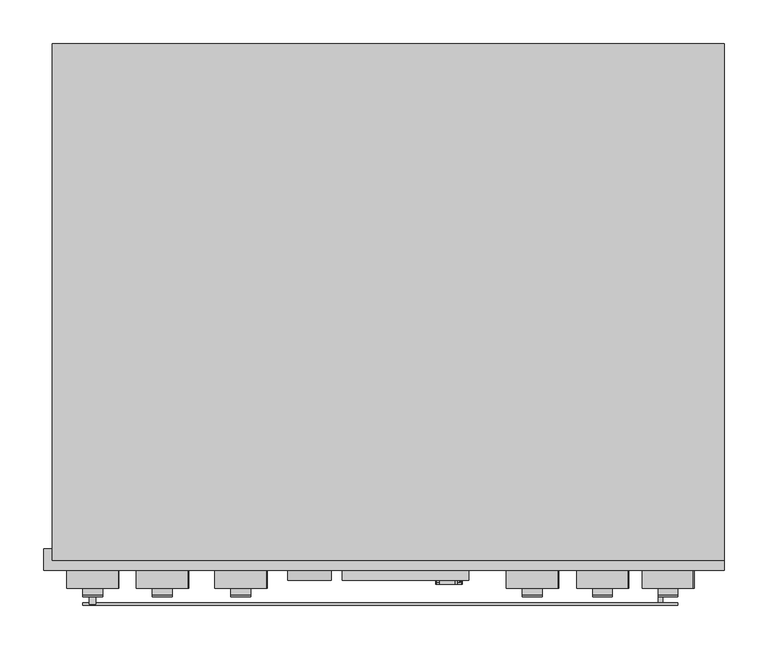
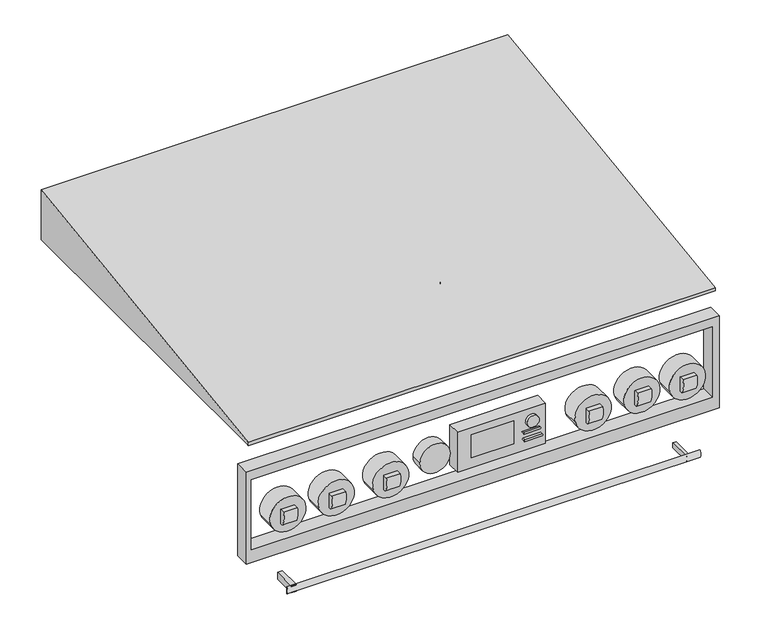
"""IFC4 building model written with IfcOpenShell, lengths in millimetres: furniture geometry, lkfogo_6_bocas_10561 : lkfogo_6_bocas_10561."""

from ifc_helpers import new_model, si_unit, point, frame, frame_2d, origin, place, context, project, spatial, polyline, circle_curve, ellipse_curve, trimmed, segment, composite_curve, outline, extrude, source, transform, mapped, element, save
from ifc_brep_helpers import plane_surface, extruded_surface, advanced_brep


def furniture_c68440b6(model_context):
    return source(origin(), model_context, "Body", "SolidModel", [
        extrude(outline(polyline([(525.0780367, -269.1443577), (455.0780367, -269.1443577), (455.0780367, -266.2082833), (525.0780367, -266.2082833), (525.0780367, -269.1443577)])), frame((0.0, 0.0, 747.9410392), z_axis=(0.0, 0.0, 1.0), x_axis=(1.0, 0.0, 0.0)), (0.0, 0.0, 1.0), 40.0),
        extrude(outline(polyline([(767.3219756, 460.5320469), (766.2286319, 461.6253907), (767.4032745, 462.8000333), (777.8502662, 462.8000333), (779.8074883, 461.6806568), (777.8180376, 460.5320469), (767.3219756, 460.5320469)])), frame((0.0, -266.2082833, 0.0), z_axis=(0.0, 1.0, 0.0), x_axis=(0.0, 0.0, 1.0)), (0.0, 0.0, 1.0), 16.2082833),
        extrude(outline(polyline([(767.3219756, 478.1737337), (766.2286319, 479.2670774), (767.4032745, 480.44172), (777.8502662, 480.44172), (779.8074883, 479.3223436), (777.8180376, 478.1737337), (767.3219756, 478.1737337)])), frame((0.0, -266.2082833, 0.0), z_axis=(0.0, 1.0, 0.0), x_axis=(0.0, 0.0, 1.0)), (0.0, 0.0, 1.0), 16.2082833),
        extrude(outline(polyline([(752.1850122, 460.5320469), (751.0916685, 461.6253907), (752.2663111, 462.8000333), (762.7133028, 462.8000333), (764.6705248, 461.6806568), (762.6810742, 460.5320469), (752.1850122, 460.5320469)])), frame((0.0, -266.2082833, 0.0), z_axis=(0.0, 1.0, 0.0), x_axis=(0.0, 0.0, 1.0)), (0.0, 0.0, 1.0), 16.2082833),
        extrude(outline(polyline([(750.1550861, 475.9956662), (751.2484298, 477.08901), (752.4230724, 475.9143674), (752.4230724, 465.4673757), (751.303696, 463.5101536), (750.1550861, 465.4996043), (750.1550861, 475.9956662)])), frame((0.0, -266.2082833, 0.0), z_axis=(0.0, 1.0, 0.0), x_axis=(0.0, 0.0, 1.0)), (0.0, 0.0, 1.0), 16.2082833),
        extrude(outline(polyline([(752.5249647, 478.1737337), (751.4316209, 479.2670774), (752.6062635, 480.44172), (763.0532552, 480.44172), (765.0104773, 479.3223436), (763.0210266, 478.1737337), (752.5249647, 478.1737337)])), frame((0.0, -266.2082833, 0.0), z_axis=(0.0, 1.0, 0.0), x_axis=(0.0, 0.0, 1.0)), (0.0, 0.0, 1.0), 16.2082833),
        extrude(outline(polyline([(767.3219756, 492.1512446), (766.2286319, 493.2445884), (767.4032745, 494.419231), (777.8502662, 494.419231), (779.8074883, 493.2998545), (777.8180376, 492.1512446), (767.3219756, 492.1512446)])), frame((0.0, -266.2082833, 0.0), z_axis=(0.0, 1.0, 0.0), x_axis=(0.0, 0.0, 1.0)), (0.0, 0.0, 1.0), 16.2082833),
        extrude(outline(polyline([(778.4964923, 475.9956662), (779.5898361, 477.08901), (780.7644787, 475.9143674), (780.7644787, 465.4673757), (779.6451022, 463.5101536), (778.4964923, 465.4996043), (778.4964923, 475.9956662)])), frame((0.0, -266.2082833, 0.0), z_axis=(0.0, 1.0, 0.0), x_axis=(0.0, 0.0, 1.0)), (0.0, 0.0, 1.0), 16.2082833),
        extrude(outline(polyline([(786.1658059, 478.8023165), (786.1658059, 477.472357), (783.2782394, 476.9632011), (782.9410392, 478.8755585), (783.9577562, 479.8922755), (783.9577562, 477.772686), (786.1658059, 478.8023165)])), frame((0.0, -266.2082833, 0.0), z_axis=(0.0, 1.0, 0.0), x_axis=(0.0, 0.0, 1.0)), (0.0, 0.0, 1.0), 19.730346),
        extrude(outline(polyline([(782.9890117, 480.0780367), (783.7210322, 480.6359), (782.9410392, 481.182057), (782.9410392, 482.1608324), (784.2615782, 480.8402934), (786.1658059, 482.7445211), (786.1658059, 481.830958), (784.4916818, 480.4262011), (786.1658059, 481.206858), (786.1658059, 480.0780367), (782.9890117, 480.0780367)])), frame((0.0, -266.2082833, 0.0), z_axis=(0.0, 1.0, 0.0), x_axis=(0.0, 0.0, 1.0)), (0.0, 0.0, 1.0), 19.730346),
        extrude(outline(polyline([(525.0780367, -266.2082833), (455.0780367, -266.2082833), (455.0780367, -250.0), (525.0780367, -250.0), (525.0780367, -266.2082833)])), frame((0.0, 0.0, 782.9410392), z_axis=(0.0, 0.0, 1.0), x_axis=(1.0, 0.0, 0.0)), (0.0, 0.0, 1.0), 5.0),
        advanced_brep(
        [(540.4742711, -273.8511244, 752.6437669), (540.4742711, -273.8511244, 749.3815631), (569.4464317, -273.8511244, 749.3815631), (569.4464317, -273.8511244, 752.6437669), (540.4742711, -226.337767, 752.6437669), (569.4464317, -226.337767, 752.6437669), (569.4464317, -226.337767, 749.3815631), (540.4742711, -226.337767, 749.3815631)],
        [
            (0, 1, ellipse_curve(frame((540.4742711, -273.8511244, 751.012665), z_axis=(0.0, -1.0, 0.0), x_axis=(0.0, 0.0, 1.0)), 1.6311019, 0.815551)),
            (1, 2),
            (2, 3, ellipse_curve(frame((569.4464317, -273.8511244, 751.012665), z_axis=(0.0, -1.0, 0.0), x_axis=(0.0, 0.0, -1.0)), 1.6311019, 0.815551)),
            (3, 0),
            (4, 5),
            (5, 6, ellipse_curve(frame((569.4464317, -226.337767, 751.012665), z_axis=(0.0, 1.0, 0.0), x_axis=(0.0, 0.0, -1.0)), 1.6311019, 0.815551)),
            (6, 7),
            (7, 4, ellipse_curve(frame((540.4742711, -226.337767, 751.012665), z_axis=(0.0, 1.0, 0.0), x_axis=(0.0, 0.0, 1.0)), 1.6311019, 0.815551)),
            (0, 4),
            (7, 1),
            (6, 2),
            (5, 3),
        ],
        [
            plane_surface(frame((540.4742711, -273.8511244, 752.6437669), z_axis=(0.0, -1.0, 0.0), x_axis=(-1.0, 0.0, 0.0))),
            plane_surface(frame((540.4742711, -226.337767, 752.6437669), z_axis=(0.0, 1.0, 0.0), x_axis=(1.0, 0.0, 0.0))),
            extruded_surface(trimmed(ellipse_curve(frame((540.4742711, -178.8244096, 751.012665), z_axis=(0.0, -1.0, 0.0), x_axis=(0.0, 0.0, 1.0)), 1.6311019, 0.815551), [point((540.4742711, -178.8244096, 752.6437669))], [point((540.4742711, -178.8244096, 749.3815631))], True, "CARTESIAN"), (0.0, -47.51335740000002, 0.0), 47.51335740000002),
            plane_surface(frame((540.4742711, -273.8511244, 749.3815631), z_axis=(0.0, 0.0, -1.0), x_axis=(0.0, 1.0, 0.0))),
            extruded_surface(trimmed(ellipse_curve(frame((569.4464317, -178.8244096, 751.012665), z_axis=(0.0, -1.0, 0.0), x_axis=(0.0, 0.0, -1.0)), 1.6311019, 0.815551), [point((569.4464317, -178.8244096, 749.3815631))], [point((569.4464317, -178.8244096, 752.6437669))], True, "CARTESIAN"), (0.0, -47.51335740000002, 0.0), 47.51335740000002),
            plane_surface(frame((569.4464317, -273.8511244, 752.6437669), z_axis=(0.0, 0.0, 1.0), x_axis=(0.0, 1.0, 0.0))),
        ],
        [
            (0, [[1, 2, 3, 4]]),
            (1, [[5, 6, 7, 8]]),
            (2, [[-1, 9, -8, 10]]),
            (3, [[-2, -10, -7, 11]]),
            (4, [[-3, -11, -6, 12]]),
            (5, [[-4, -12, -5, -9]]),
        ],
    ),
        advanced_brep(
        [(540.656711, -271.8159662, 764.4132531), (540.656711, -271.8159662, 761.1510492), (567.3457423, -271.8159662, 761.1510492), (567.3457423, -271.8159662, 764.4132531), (540.656711, -246.4779373, 764.4132531), (567.3457423, -246.4779373, 764.4132531), (567.3457423, -246.4779373, 761.1510492), (540.656711, -246.4779373, 761.1510492)],
        [
            (0, 1, ellipse_curve(frame((540.656711, -271.8159662, 762.7821511), z_axis=(0.0, -1.0, 0.0), x_axis=(0.0, 0.0, 1.0)), 1.6311019, 0.815551)),
            (1, 2),
            (2, 3, ellipse_curve(frame((567.3457423, -271.8159662, 762.7821511), z_axis=(0.0, -1.0, 0.0), x_axis=(0.0, 0.0, -1.0)), 1.6311019, 0.815551)),
            (3, 0),
            (4, 5),
            (5, 6, ellipse_curve(frame((567.3457423, -246.4779373, 762.7821511), z_axis=(0.0, 1.0, 0.0), x_axis=(0.0, 0.0, -1.0)), 1.6311019, 0.815551)),
            (6, 7),
            (7, 4, ellipse_curve(frame((540.656711, -246.4779373, 762.7821511), z_axis=(0.0, 1.0, 0.0), x_axis=(0.0, 0.0, 1.0)), 1.6311019, 0.815551)),
            (0, 4),
            (7, 1),
            (6, 2),
            (5, 3),
        ],
        [
            plane_surface(frame((540.656711, -271.8159662, 764.4132531), z_axis=(0.0, -1.0, 0.0), x_axis=(-1.0, 0.0, 0.0))),
            plane_surface(frame((540.656711, -246.4779373, 764.4132531), z_axis=(0.0, 1.0, 0.0), x_axis=(1.0, 0.0, 0.0))),
            extruded_surface(trimmed(ellipse_curve(frame((540.656711, -221.1399084, 762.7821511), z_axis=(0.0, -1.0, 0.0), x_axis=(0.0, 0.0, 1.0)), 1.6311019, 0.815551), [point((540.656711, -221.1399084, 764.4132531))], [point((540.656711, -221.1399084, 761.1510492))], True, "CARTESIAN"), (0.0, -25.338028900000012, 0.0), 25.338028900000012),
            plane_surface(frame((540.656711, -271.8159662, 761.1510492), z_axis=(0.0, 0.0, -1.0), x_axis=(0.0, 1.0, 0.0))),
            extruded_surface(trimmed(ellipse_curve(frame((567.3457423, -221.1399084, 762.7821511), z_axis=(0.0, -1.0, 0.0), x_axis=(0.0, 0.0, -1.0)), 1.6311019, 0.815551), [point((567.3457423, -221.1399084, 761.1510492))], [point((567.3457423, -221.1399084, 764.4132531))], True, "CARTESIAN"), (0.0, -25.338028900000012, 0.0), 25.338028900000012),
            plane_surface(frame((567.3457423, -271.8159662, 764.4132531), z_axis=(0.0, 0.0, 1.0), x_axis=(0.0, 1.0, 0.0))),
        ],
        [
            (0, [[1, 2, 3, 4]]),
            (1, [[5, 6, 7, 8]]),
            (2, [[-1, 9, -8, 10]]),
            (3, [[-2, -10, -7, 11]]),
            (4, [[-3, -11, -6, 12]]),
            (5, [[-4, -12, -5, -9]]),
        ],
    ),
        advanced_brep(
        [(561.6524908, -273.8511244, 786.801504), (547.5103552, -273.8511244, 772.6593684), (561.6524908, -246.4779373, 786.801504), (547.5103552, -246.4779373, 772.6593684)],
        [
            (0, 1, circle_curve(frame((554.581423, -273.8511244, 779.7304362), z_axis=(0.0, -1.0, 0.0), x_axis=(-0.7071067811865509, 0.0, -0.7071067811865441)), 10.0)),
            (1, 0, circle_curve(frame((554.581423, -273.8511244, 779.7304362), z_axis=(0.0, -1.0, 0.0), x_axis=(-0.7071067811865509, 0.0, -0.7071067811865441)), 10.0)),
            (2, 3, ellipse_curve(frame((554.581423, -246.4779373, 779.7304362), z_axis=(0.0, 1.0, 0.0), x_axis=(-0.7071067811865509, 0.0, -0.7071067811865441)), 10.0, 10.0)),
            (3, 2, ellipse_curve(frame((554.581423, -246.4779373, 779.7304362), z_axis=(0.0, 1.0, 0.0), x_axis=(-0.7071067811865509, 0.0, -0.7071067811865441)), 10.0, 10.0)),
            (0, 2),
            (3, 1),
        ],
        [
            plane_surface(frame((547.5103552, -273.8511244, 772.6593684), z_axis=(0.0, -1.0, 0.0), x_axis=(0.7071067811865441, 0.0, -0.7071067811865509))),
            plane_surface(frame((547.5103552, -246.4779373, 772.6593684), z_axis=(0.0, 1.0, 0.0), x_axis=(-0.7071067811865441, 0.0, 0.7071067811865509))),
            extruded_surface(trimmed(ellipse_curve(frame((554.581423, -219.1047502, 779.7304362), z_axis=(0.0, -1.0, 0.0), x_axis=(-0.7071067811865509, 0.0, -0.7071067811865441)), 10.0, 10.0), [point((561.6524908, -219.1047502, 786.801504))], [point((547.5103552, -219.1047502, 772.6593684))], True, "CARTESIAN"), (0.0, -27.373187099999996, 0.0), 27.373187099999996),
            extruded_surface(trimmed(ellipse_curve(frame((554.581423, -219.1047502, 779.7304362), z_axis=(0.0, -1.0, 0.0), x_axis=(-0.7071067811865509, 0.0, -0.7071067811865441)), 10.0, 10.0), [point((547.5103552, -219.1047502, 772.6593684))], [point((561.6524908, -219.1047502, 786.801504))], True, "CARTESIAN"), (0.0, -27.373187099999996, 0.0), 27.373187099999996),
        ],
        [
            (0, [[1, 2]]),
            (1, [[3, 4]]),
            (2, [[-1, 5, -4, 6]]),
            (3, [[-2, -6, -3, -5]]),
        ],
    ),
        extrude(outline(polyline([(843.3845259, 871.0), (843.3845259, 90.0), (682.9911074, 90.0), (682.9911074, 871.0), (843.3845259, 871.0)]), holes=[polyline([(705.2877095, 860.0), (705.2877095, 97.9875573), (827.9911074, 97.9875573), (827.9911074, 860.0), (705.2877095, 860.0)])]), frame((0.0, -257.5488816, 0.0), z_axis=(0.0, 1.0, 0.0), x_axis=(0.0, 0.0, 1.0)), (0.0, 0.0, 1.0), 24.2680838),
        extrude(outline(polyline([(149.9204792, -257.5488816), (149.9204792, -296.5558806), (142.1687699, -296.5558806), (142.1687699, -257.5488816), (149.9204792, -257.5488816)])), frame((0.0, 0.0, 638.3659998), z_axis=(0.0, 0.0, 1.0), x_axis=(1.0, 0.0, 0.0)), (0.0, 0.0, 1.0), 11.9217097),
        extrude(outline(polyline([(800.5444022, -257.5488816), (800.5444022, -296.5558806), (794.9204792, -296.5558806), (794.9204792, -257.5488816), (800.5444022, -257.5488816)])), frame((0.0, 0.0, 639.8586083), z_axis=(0.0, 0.0, 1.0), x_axis=(1.0, 0.0, 0.0)), (0.0, 0.0, 1.0), 8.132499),
        advanced_brep(
        [(817.6307567, -295.3027112, 638.3659998), (817.6307567, -295.3027112, 650.724288), (134.9204792, -295.3027112, 638.3659998), (134.9204792, -295.3027112, 650.724288)],
        [
            (0, 1, ellipse_curve(frame((817.6307567, -295.3027112, 644.5451439), z_axis=(-1.0, 0.0, 0.0), x_axis=(0.0, 0.0, -1.0)), 6.1791441, 1.0346726)),
            (1, 0, ellipse_curve(frame((817.6307567, -295.3027112, 644.5451439), z_axis=(1.0, 0.0, 0.0), x_axis=(0.0, 0.0, 1.0)), 6.1791441, 2.4274177)),
            (2, 3, ellipse_curve(frame((134.9204792, -295.3027112, 644.5451439), z_axis=(-1.0, 0.0, 0.0), x_axis=(0.0, 0.0, 1.0)), 6.1791441, 2.4274177)),
            (3, 2, ellipse_curve(frame((134.9204792, -295.3027112, 644.5451439), z_axis=(1.0, 0.0, 0.0), x_axis=(0.0, 0.0, -1.0)), 6.1791441, 1.0346726)),
            (0, 2),
            (3, 1),
        ],
        [
            plane_surface(frame((817.6307567, -295.3027112, 638.3659998), z_axis=(1.0, 0.0, 0.0), x_axis=(0.0, -1.0, 0.0))),
            plane_surface(frame((134.9204792, -295.3027112, 638.3659998), z_axis=(-1.0, 0.0, 0.0), x_axis=(0.0, 1.0, 0.0))),
            extruded_surface(trimmed(ellipse_curve(frame((-547.7897983, -295.3027112, 644.5451439), z_axis=(-1.0, 0.0, 0.0), x_axis=(0.0, 0.0, -1.0)), 6.1791441, 1.0346726), [point((-547.7897983, -295.3027112, 638.3659998))], [point((-547.7897983, -295.3027112, 650.724288))], True, "CARTESIAN"), (682.7102775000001, 0.0, 0.0), 682.7102775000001),
            extruded_surface(trimmed(ellipse_curve(frame((-547.7897983, -295.3027112, 644.5451439), z_axis=(1.0, 0.0, 0.0), x_axis=(0.0, 0.0, 1.0)), 6.1791441, 2.4274177), [point((-547.7897983, -295.3027112, 650.724288))], [point((-547.7897983, -295.3027112, 638.3659998))], True, "CARTESIAN"), (682.7102775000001, 0.0, 0.0), 682.7102775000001),
        ],
        [
            (0, [[1, 2]]),
            (1, [[3, 4]]),
            (2, [[-1, 5, -4, 6]]),
            (3, [[-2, -6, -3, -5]]),
        ],
    ),
        advanced_brep(
        [(370.0780367, -269.1443577, 767.9911074), (420.0780367, -269.1443577, 767.9911074), (370.0780367, -250.0, 767.9911074), (420.0780367, -250.0, 767.9911074)],
        [
            (0, 1, circle_curve(frame((395.0780367, -269.1443577, 767.9911074), z_axis=(0.0, -1.0, 0.0), x_axis=(1.0, 0.0, 0.0)), 25.0)),
            (1, 0, circle_curve(frame((395.0780367, -269.1443577, 767.9911074), z_axis=(0.0, -1.0, 0.0), x_axis=(1.0, 0.0, 0.0)), 25.0)),
            (2, 3, ellipse_curve(frame((395.0780367, -250.0, 767.9911074), z_axis=(0.0, 1.0, 0.0), x_axis=(1.0, 0.0, 0.0)), 25.0, 25.0)),
            (3, 2, ellipse_curve(frame((395.0780367, -250.0, 767.9911074), z_axis=(0.0, 1.0, 0.0), x_axis=(1.0, 0.0, 0.0)), 25.0, 25.0)),
            (0, 2),
            (3, 1),
        ],
        [
            plane_surface(frame((420.0780367, -269.1443577, 767.9911074), z_axis=(0.0, -1.0, 0.0), x_axis=(0.0, 0.0, 1.0))),
            plane_surface(frame((420.0780367, -250.0, 767.9911074), z_axis=(0.0, 1.0, 0.0), x_axis=(0.0, 0.0, -1.0))),
            extruded_surface(trimmed(ellipse_curve(frame((395.0780367, -230.8556423, 767.9911074), z_axis=(0.0, -1.0, 0.0), x_axis=(1.0, 0.0, 0.0)), 25.0, 25.0), [point((370.0780367, -230.8556423, 767.9911074))], [point((420.0780367, -230.8556423, 767.9911074))], True, "CARTESIAN"), (0.0, -19.1443577, 0.0), 19.1443577),
            extruded_surface(trimmed(ellipse_curve(frame((395.0780367, -230.8556423, 767.9911074), z_axis=(0.0, -1.0, 0.0), x_axis=(1.0, 0.0, 0.0)), 25.0, 25.0), [point((420.0780367, -230.8556423, 767.9911074))], [point((370.0780367, -230.8556423, 767.9911074))], True, "CARTESIAN"), (0.0, -19.1443577, 0.0), 19.1443577),
        ],
        [
            (0, [[1, 2]]),
            (1, [[3, 4]]),
            (2, [[-1, 5, -4, 6]]),
            (3, [[-2, -6, -3, -5]]),
        ],
    ),
        extrude(outline(polyline([(800.2877095, 577.6307567), (800.2877095, 432.6307567), (730.2877095, 432.6307567), (730.2877095, 577.6307567), (800.2877095, 577.6307567)]), holes=[polyline([(787.9410392, 525.0780367), (747.9410392, 525.0780367), (747.9410392, 455.0780367), (787.9410392, 455.0780367), (787.9410392, 525.0780367)])]), frame((0.0, -269.1443577, 0.0), z_axis=(0.0, 1.0, 0.0), x_axis=(0.0, 0.0, 1.0)), (0.0, 0.0, 1.0), 22.6664204),
        advanced_brep(
        [(817.6307567, -286.6061628, 775.5860292), (817.6307567, -281.6417117, 750.7911222), (817.6307567, -269.1443577, 750.7911222), (817.6307567, -269.1443577, 775.5860292), (794.9204792, -286.6061628, 775.5860292), (794.9204792, -269.1443577, 775.5860292), (794.9204792, -269.1443577, 750.7911222), (794.9204792, -281.6417117, 750.7911222)],
        [
            (0, 1, ellipse_curve(frame((817.6307567, -282.8930347, 764.3553235), z_axis=(1.0000000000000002, 0.0, 0.0), x_axis=(0.0, 0.09186180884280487, -0.9957717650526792)), 13.6217975, 5.0)),
            (1, 2),
            (2, 3),
            (3, 0),
            (4, 5),
            (5, 6),
            (6, 7),
            (7, 4, ellipse_curve(frame((794.9204792, -282.8930347, 764.3553235), z_axis=(-1.0000000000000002, 0.0, 0.0), x_axis=(0.0, 0.09186180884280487, -0.9957717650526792)), 13.6217975, 5.0)),
            (0, 4),
            (7, 1),
            (6, 2),
            (5, 3),
        ],
        [
            plane_surface(frame((817.6307567, -281.6417117, 750.7911222), z_axis=(1.0000000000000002, 0.0, 0.0), x_axis=(0.0, 0.9957717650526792, 0.09186180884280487))),
            plane_surface(frame((794.9204792, -281.6417117, 750.7911222), z_axis=(-1.0000000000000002, 0.0, 0.0), x_axis=(0.0, -0.9957717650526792, -0.09186180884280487))),
            extruded_surface(trimmed(ellipse_curve(frame((772.2102017, -282.8930347, 764.3553235), z_axis=(1.0000000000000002, 0.0, 0.0), x_axis=(0.0, 0.09186180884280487, -0.9957717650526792)), 13.6217975, 5.0), [point((772.2102017, -286.6061628, 775.5860292))], [point((772.2102017, -281.6417117, 750.7911222))], True, "CARTESIAN"), (22.710277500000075, 0.0, 0.0), 22.710277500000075),
            plane_surface(frame((817.6307567, -281.6417117, 750.7911222), z_axis=(0.0, 0.0, -1.0), x_axis=(-1.0, 0.0, 0.0))),
            plane_surface(frame((817.6307567, -269.1443577, 750.7911222), z_axis=(0.0, 1.0, 0.0), x_axis=(-1.0, 0.0, 0.0))),
            plane_surface(frame((817.6307567, -269.1443577, 775.5860292), z_axis=(0.0, 0.0, 1.0), x_axis=(-1.0, 0.0, 0.0))),
        ],
        [
            (0, [[1, 2, 3, 4]]),
            (1, [[5, 6, 7, 8]]),
            (2, [[-1, 9, -8, 10]]),
            (3, [[-2, -10, -7, 11]]),
            (4, [[-3, -11, -6, 12]]),
            (5, [[-4, -12, -5, -9]]),
        ],
    ),
        advanced_brep(
        [(835.4820734, -278.5011133, 771.6201985), (777.5265239, -278.5011133, 756.0910558), (835.4820734, -250.0, 771.6201985), (777.5265239, -250.0, 756.0910558)],
        [
            (0, 1, circle_curve(frame((806.5042987, -278.5011133, 763.8556272), z_axis=(0.0, -1.0000000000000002, 0.0), x_axis=(-0.9659258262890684, 0.0, -0.2588190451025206)), 30.0)),
            (1, 0, circle_curve(frame((806.5042987, -278.5011133, 763.8556272), z_axis=(0.0, -1.0000000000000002, 0.0), x_axis=(-0.9659258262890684, 0.0, -0.2588190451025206)), 30.0)),
            (2, 3, ellipse_curve(frame((806.5042987, -250.0, 763.8556272), z_axis=(0.0, 1.0000000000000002, 0.0), x_axis=(-0.9659258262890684, 0.0, -0.2588190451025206)), 30.0, 30.0)),
            (3, 2, ellipse_curve(frame((806.5042987, -250.0, 763.8556272), z_axis=(0.0, 1.0000000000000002, 0.0), x_axis=(-0.9659258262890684, 0.0, -0.2588190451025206)), 30.0, 30.0)),
            (0, 2),
            (3, 1),
        ],
        [
            plane_surface(frame((777.5265239, -278.5011133, 756.0910558), z_axis=(0.0, -1.0000000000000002, 0.0), x_axis=(0.2588190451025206, 0.0, -0.9659258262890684))),
            plane_surface(frame((777.5265239, -250.0, 756.0910558), z_axis=(0.0, 1.0000000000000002, 0.0), x_axis=(-0.2588190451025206, 0.0, 0.9659258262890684))),
            extruded_surface(trimmed(ellipse_curve(frame((806.5042987, -221.4988867, 763.8556272), z_axis=(0.0, -1.0000000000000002, 0.0), x_axis=(-0.9659258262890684, 0.0, -0.2588190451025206)), 30.0, 30.0), [point((835.4820734, -221.4988867, 771.6201985))], [point((777.5265239, -221.4988867, 756.0910558))], True, "CARTESIAN"), (0.0, -28.501113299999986, 0.0), 28.501113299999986),
            extruded_surface(trimmed(ellipse_curve(frame((806.5042987, -221.4988867, 763.8556272), z_axis=(0.0, -1.0000000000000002, 0.0), x_axis=(-0.9659258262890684, 0.0, -0.2588190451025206)), 30.0, 30.0), [point((777.5265239, -221.4988867, 756.0910558))], [point((835.4820734, -221.4988867, 771.6201985))], True, "CARTESIAN"), (0.0, -28.501113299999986, 0.0), 28.501113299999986),
        ],
        [
            (0, [[1, 2]]),
            (1, [[3, 4]]),
            (2, [[-1, 5, -4, 6]]),
            (3, [[-2, -6, -3, -5]]),
        ],
    ),
        advanced_brep(
        [(742.3917732, -286.6061628, 778.4026906), (742.3917732, -281.6417117, 753.6077835), (742.3917732, -269.1443577, 753.6077835), (742.3917732, -269.1443577, 778.4026906), (719.6814957, -286.6061628, 778.4026906), (719.6814957, -269.1443577, 778.4026906), (719.6814957, -269.1443577, 753.6077835), (719.6814957, -281.6417117, 753.6077835)],
        [
            (0, 1, ellipse_curve(frame((742.3917732, -282.8930347, 767.1719848), z_axis=(1.0000000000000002, 0.0, 0.0), x_axis=(0.0, 0.09186180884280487, -0.9957717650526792)), 13.6217975, 5.0)),
            (1, 2),
            (2, 3),
            (3, 0),
            (4, 5),
            (5, 6),
            (6, 7),
            (7, 4, ellipse_curve(frame((719.6814957, -282.8930347, 767.1719848), z_axis=(-1.0000000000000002, 0.0, 0.0), x_axis=(0.0, 0.09186180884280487, -0.9957717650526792)), 13.6217975, 5.0)),
            (0, 4),
            (7, 1),
            (6, 2),
            (5, 3),
        ],
        [
            plane_surface(frame((742.3917732, -281.6417117, 753.6077835), z_axis=(1.0000000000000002, 0.0, 0.0), x_axis=(0.0, 0.9957717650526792, 0.09186180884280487))),
            plane_surface(frame((719.6814957, -281.6417117, 753.6077835), z_axis=(-1.0000000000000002, 0.0, 0.0), x_axis=(0.0, -0.9957717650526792, -0.09186180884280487))),
            extruded_surface(trimmed(ellipse_curve(frame((696.9712181, -282.8930347, 767.1719848), z_axis=(1.0000000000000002, 0.0, 0.0), x_axis=(0.0, 0.09186180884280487, -0.9957717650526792)), 13.6217975, 5.0), [point((696.9712181, -286.6061628, 778.4026906))], [point((696.9712181, -281.6417117, 753.6077835))], True, "CARTESIAN"), (22.71027760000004, 0.0, 0.0), 22.71027760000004),
            plane_surface(frame((742.3917732, -281.6417117, 753.6077835), z_axis=(0.0, 0.0, -1.0), x_axis=(-1.0, 0.0, 0.0))),
            plane_surface(frame((742.3917732, -269.1443577, 753.6077835), z_axis=(0.0, 1.0, 0.0), x_axis=(-1.0, 0.0, 0.0))),
            plane_surface(frame((742.3917732, -269.1443577, 778.4026906), z_axis=(0.0, 0.0, 1.0), x_axis=(-1.0, 0.0, 0.0))),
        ],
        [
            (0, [[1, 2, 3, 4]]),
            (1, [[5, 6, 7, 8]]),
            (2, [[-1, 9, -8, 10]]),
            (3, [[-2, -10, -7, 11]]),
            (4, [[-3, -11, -6, 12]]),
            (5, [[-4, -12, -5, -9]]),
        ],
    ),
        advanced_brep(
        [(760.2430899, -278.5011133, 774.4368598), (702.2875403, -278.5011133, 758.9077171), (760.2430899, -250.0, 774.4368598), (702.2875403, -250.0, 758.9077171)],
        [
            (0, 1, circle_curve(frame((731.2653151, -278.5011133, 766.6722885), z_axis=(0.0, -1.0000000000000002, 0.0), x_axis=(-0.9659258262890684, 0.0, -0.2588190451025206)), 30.0)),
            (1, 0, circle_curve(frame((731.2653151, -278.5011133, 766.6722885), z_axis=(0.0, -1.0000000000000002, 0.0), x_axis=(-0.9659258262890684, 0.0, -0.2588190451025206)), 30.0)),
            (2, 3, ellipse_curve(frame((731.2653151, -250.0, 766.6722885), z_axis=(0.0, 1.0000000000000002, 0.0), x_axis=(-0.9659258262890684, 0.0, -0.2588190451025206)), 30.0, 30.0)),
            (3, 2, ellipse_curve(frame((731.2653151, -250.0, 766.6722885), z_axis=(0.0, 1.0000000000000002, 0.0), x_axis=(-0.9659258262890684, 0.0, -0.2588190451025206)), 30.0, 30.0)),
            (0, 2),
            (3, 1),
        ],
        [
            plane_surface(frame((702.2875403, -278.5011133, 758.9077171), z_axis=(0.0, -1.0000000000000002, 0.0), x_axis=(0.2588190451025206, 0.0, -0.9659258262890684))),
            plane_surface(frame((702.2875403, -250.0, 758.9077171), z_axis=(0.0, 1.0000000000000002, 0.0), x_axis=(-0.2588190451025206, 0.0, 0.9659258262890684))),
            extruded_surface(trimmed(ellipse_curve(frame((731.2653151, -221.4988867, 766.6722885), z_axis=(0.0, -1.0000000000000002, 0.0), x_axis=(-0.9659258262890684, 0.0, -0.2588190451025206)), 30.0, 30.0), [point((760.2430899, -221.4988867, 774.4368598))], [point((702.2875403, -221.4988867, 758.9077171))], True, "CARTESIAN"), (0.0, -28.501113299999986, 0.0), 28.501113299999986),
            extruded_surface(trimmed(ellipse_curve(frame((731.2653151, -221.4988867, 766.6722885), z_axis=(0.0, -1.0000000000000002, 0.0), x_axis=(-0.9659258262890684, 0.0, -0.2588190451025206)), 30.0, 30.0), [point((702.2875403, -221.4988867, 758.9077171))], [point((760.2430899, -221.4988867, 774.4368598))], True, "CARTESIAN"), (0.0, -28.501113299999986, 0.0), 28.501113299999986),
        ],
        [
            (0, [[1, 2]]),
            (1, [[3, 4]]),
            (2, [[-1, 5, -4, 6]]),
            (3, [[-2, -6, -3, -5]]),
        ],
    ),
        advanced_brep(
        [(662.0640151, -286.6061628, 775.5860292), (662.0640151, -281.6417117, 750.7911222), (662.0640151, -269.1443577, 750.7911222), (662.0640151, -269.1443577, 775.5860292), (639.3537375, -286.6061628, 775.5860292), (639.3537375, -269.1443577, 775.5860292), (639.3537375, -269.1443577, 750.7911222), (639.3537375, -281.6417117, 750.7911222)],
        [
            (0, 1, ellipse_curve(frame((662.0640151, -282.8930347, 764.3553235), z_axis=(1.0000000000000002, 0.0, 0.0), x_axis=(0.0, 0.09186180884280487, -0.9957717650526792)), 13.6217975, 5.0)),
            (1, 2),
            (2, 3),
            (3, 0),
            (4, 5),
            (5, 6),
            (6, 7),
            (7, 4, ellipse_curve(frame((639.3537375, -282.8930347, 764.3553235), z_axis=(-1.0000000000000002, 0.0, 0.0), x_axis=(0.0, 0.09186180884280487, -0.9957717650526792)), 13.6217975, 5.0)),
            (0, 4),
            (7, 1),
            (6, 2),
            (5, 3),
        ],
        [
            plane_surface(frame((662.0640151, -281.6417117, 750.7911222), z_axis=(1.0000000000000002, 0.0, 0.0), x_axis=(0.0, 0.9957717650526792, 0.09186180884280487))),
            plane_surface(frame((639.3537375, -281.6417117, 750.7911222), z_axis=(-1.0000000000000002, 0.0, 0.0), x_axis=(0.0, -0.9957717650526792, -0.09186180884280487))),
            extruded_surface(trimmed(ellipse_curve(frame((616.64346, -282.8930347, 764.3553235), z_axis=(1.0000000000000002, 0.0, 0.0), x_axis=(0.0, 0.09186180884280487, -0.9957717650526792)), 13.6217975, 5.0), [point((616.64346, -286.6061628, 775.5860292))], [point((616.64346, -281.6417117, 750.7911222))], True, "CARTESIAN"), (22.71027749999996, 0.0, 0.0), 22.71027749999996),
            plane_surface(frame((662.0640151, -281.6417117, 750.7911222), z_axis=(0.0, 0.0, -1.0), x_axis=(-1.0, 0.0, 0.0))),
            plane_surface(frame((662.0640151, -269.1443577, 750.7911222), z_axis=(0.0, 1.0, 0.0), x_axis=(-1.0, 0.0, 0.0))),
            plane_surface(frame((662.0640151, -269.1443577, 775.5860292), z_axis=(0.0, 0.0, 1.0), x_axis=(-1.0, 0.0, 0.0))),
        ],
        [
            (0, [[1, 2, 3, 4]]),
            (1, [[5, 6, 7, 8]]),
            (2, [[-1, 9, -8, 10]]),
            (3, [[-2, -10, -7, 11]]),
            (4, [[-3, -11, -6, 12]]),
            (5, [[-4, -12, -5, -9]]),
        ],
    ),
        advanced_brep(
        [(679.9153318, -278.5011133, 771.6201985), (621.9597822, -278.5011133, 756.0910558), (679.9153318, -250.0, 771.6201985), (621.9597822, -250.0, 756.0910558)],
        [
            (0, 1, circle_curve(frame((650.937557, -278.5011133, 763.8556272), z_axis=(0.0, -1.0000000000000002, 0.0), x_axis=(-0.9659258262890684, 0.0, -0.2588190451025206)), 30.0)),
            (1, 0, circle_curve(frame((650.937557, -278.5011133, 763.8556272), z_axis=(0.0, -1.0000000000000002, 0.0), x_axis=(-0.9659258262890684, 0.0, -0.2588190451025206)), 30.0)),
            (2, 3, ellipse_curve(frame((650.937557, -250.0, 763.8556272), z_axis=(0.0, 1.0000000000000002, 0.0), x_axis=(-0.9659258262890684, 0.0, -0.2588190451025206)), 30.0, 30.0)),
            (3, 2, ellipse_curve(frame((650.937557, -250.0, 763.8556272), z_axis=(0.0, 1.0000000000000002, 0.0), x_axis=(-0.9659258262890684, 0.0, -0.2588190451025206)), 30.0, 30.0)),
            (0, 2),
            (3, 1),
        ],
        [
            plane_surface(frame((621.9597822, -278.5011133, 756.0910558), z_axis=(0.0, -1.0000000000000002, 0.0), x_axis=(0.2588190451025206, 0.0, -0.9659258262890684))),
            plane_surface(frame((621.9597822, -250.0, 756.0910558), z_axis=(0.0, 1.0000000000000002, 0.0), x_axis=(-0.2588190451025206, 0.0, 0.9659258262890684))),
            extruded_surface(trimmed(ellipse_curve(frame((650.937557, -221.4988867, 763.8556272), z_axis=(0.0, -1.0000000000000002, 0.0), x_axis=(-0.9659258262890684, 0.0, -0.2588190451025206)), 30.0, 30.0), [point((679.9153318, -221.4988867, 771.6201985))], [point((621.9597822, -221.4988867, 756.0910558))], True, "CARTESIAN"), (0.0, -28.501113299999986, 0.0), 28.501113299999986),
            extruded_surface(trimmed(ellipse_curve(frame((650.937557, -221.4988867, 763.8556272), z_axis=(0.0, -1.0000000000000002, 0.0), x_axis=(-0.9659258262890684, 0.0, -0.2588190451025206)), 30.0, 30.0), [point((621.9597822, -221.4988867, 756.0910558))], [point((679.9153318, -221.4988867, 771.6201985))], True, "CARTESIAN"), (0.0, -28.501113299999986, 0.0), 28.501113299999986),
        ],
        [
            (0, [[1, 2]]),
            (1, [[3, 4]]),
            (2, [[-1, 5, -4, 6]]),
            (3, [[-2, -6, -3, -5]]),
        ],
    ),
        advanced_brep(
        [(327.6307567, -286.6061628, 775.5860292), (327.6307567, -281.6417117, 750.7911222), (327.6307567, -269.1443577, 750.7911222), (327.6307567, -269.1443577, 775.5860292), (304.9204792, -286.6061628, 775.5860292), (304.9204792, -269.1443577, 775.5860292), (304.9204792, -269.1443577, 750.7911222), (304.9204792, -281.6417117, 750.7911222)],
        [
            (0, 1, ellipse_curve(frame((327.6307567, -282.8930347, 764.3553235), z_axis=(1.0000000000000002, 0.0, 0.0), x_axis=(0.0, 0.09186180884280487, -0.9957717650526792)), 13.6217975, 5.0)),
            (1, 2),
            (2, 3),
            (3, 0),
            (4, 5),
            (5, 6),
            (6, 7),
            (7, 4, ellipse_curve(frame((304.9204792, -282.8930347, 764.3553235), z_axis=(-1.0000000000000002, 0.0, 0.0), x_axis=(0.0, 0.09186180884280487, -0.9957717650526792)), 13.6217975, 5.0)),
            (0, 4),
            (7, 1),
            (6, 2),
            (5, 3),
        ],
        [
            plane_surface(frame((327.6307567, -281.6417117, 750.7911222), z_axis=(1.0000000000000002, 0.0, 0.0), x_axis=(0.0, 0.9957717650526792, 0.09186180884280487))),
            plane_surface(frame((304.9204792, -281.6417117, 750.7911222), z_axis=(-1.0000000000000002, 0.0, 0.0), x_axis=(0.0, -0.9957717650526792, -0.09186180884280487))),
            extruded_surface(trimmed(ellipse_curve(frame((282.2102017, -282.8930347, 764.3553235), z_axis=(1.0000000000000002, 0.0, 0.0), x_axis=(0.0, 0.09186180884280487, -0.9957717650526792)), 13.6217975, 5.0), [point((282.2102017, -286.6061628, 775.5860292))], [point((282.2102017, -281.6417117, 750.7911222))], True, "CARTESIAN"), (22.71027749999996, 0.0, 0.0), 22.71027749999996),
            plane_surface(frame((327.6307567, -281.6417117, 750.7911222), z_axis=(0.0, 0.0, -1.0), x_axis=(-1.0, 0.0, 0.0))),
            plane_surface(frame((327.6307567, -269.1443577, 750.7911222), z_axis=(0.0, 1.0, 0.0), x_axis=(-1.0, 0.0, 0.0))),
            plane_surface(frame((327.6307567, -269.1443577, 775.5860292), z_axis=(0.0, 0.0, 1.0), x_axis=(-1.0, 0.0, 0.0))),
        ],
        [
            (0, [[1, 2, 3, 4]]),
            (1, [[5, 6, 7, 8]]),
            (2, [[-1, 9, -8, 10]]),
            (3, [[-2, -10, -7, 11]]),
            (4, [[-3, -11, -6, 12]]),
            (5, [[-4, -12, -5, -9]]),
        ],
    ),
        advanced_brep(
        [(345.4820734, -278.5011133, 771.6201985), (287.5265239, -278.5011133, 756.0910558), (345.4820734, -250.0, 771.6201985), (287.5265239, -250.0, 756.0910558)],
        [
            (0, 1, circle_curve(frame((316.5042987, -278.5011133, 763.8556272), z_axis=(0.0, -1.0000000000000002, 0.0), x_axis=(-0.9659258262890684, 0.0, -0.2588190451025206)), 30.0)),
            (1, 0, circle_curve(frame((316.5042987, -278.5011133, 763.8556272), z_axis=(0.0, -1.0000000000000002, 0.0), x_axis=(-0.9659258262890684, 0.0, -0.2588190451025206)), 30.0)),
            (2, 3, ellipse_curve(frame((316.5042987, -250.0, 763.8556272), z_axis=(0.0, 1.0000000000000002, 0.0), x_axis=(-0.9659258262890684, 0.0, -0.2588190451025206)), 30.0, 30.0)),
            (3, 2, ellipse_curve(frame((316.5042987, -250.0, 763.8556272), z_axis=(0.0, 1.0000000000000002, 0.0), x_axis=(-0.9659258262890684, 0.0, -0.2588190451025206)), 30.0, 30.0)),
            (0, 2),
            (3, 1),
        ],
        [
            plane_surface(frame((287.5265239, -278.5011133, 756.0910558), z_axis=(0.0, -1.0000000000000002, 0.0), x_axis=(0.2588190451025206, 0.0, -0.9659258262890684))),
            plane_surface(frame((287.5265239, -250.0, 756.0910558), z_axis=(0.0, 1.0000000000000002, 0.0), x_axis=(-0.2588190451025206, 0.0, 0.9659258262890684))),
            extruded_surface(trimmed(ellipse_curve(frame((316.5042987, -221.4988867, 763.8556272), z_axis=(0.0, -1.0000000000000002, 0.0), x_axis=(-0.9659258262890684, 0.0, -0.2588190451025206)), 30.0, 30.0), [point((345.4820734, -221.4988867, 771.6201985))], [point((287.5265239, -221.4988867, 756.0910558))], True, "CARTESIAN"), (0.0, -28.501113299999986, 0.0), 28.501113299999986),
            extruded_surface(trimmed(ellipse_curve(frame((316.5042987, -221.4988867, 763.8556272), z_axis=(0.0, -1.0000000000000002, 0.0), x_axis=(-0.9659258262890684, 0.0, -0.2588190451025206)), 30.0, 30.0), [point((287.5265239, -221.4988867, 756.0910558))], [point((345.4820734, -221.4988867, 771.6201985))], True, "CARTESIAN"), (0.0, -28.501113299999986, 0.0), 28.501113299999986),
        ],
        [
            (0, [[1, 2]]),
            (1, [[3, 4]]),
            (2, [[-1, 5, -4, 6]]),
            (3, [[-2, -6, -3, -5]]),
        ],
    ),
        advanced_brep(
        [(237.6307567, -286.6061628, 775.5860292), (237.6307567, -281.6417117, 750.7911222), (237.6307567, -269.1443577, 750.7911222), (237.6307567, -269.1443577, 775.5860292), (214.9204792, -286.6061628, 775.5860292), (214.9204792, -269.1443577, 775.5860292), (214.9204792, -269.1443577, 750.7911222), (214.9204792, -281.6417117, 750.7911222)],
        [
            (0, 1, ellipse_curve(frame((237.6307567, -282.8930347, 764.3553235), z_axis=(1.0000000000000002, 0.0, 0.0), x_axis=(0.0, 0.09186180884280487, -0.9957717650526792)), 13.6217975, 5.0)),
            (1, 2),
            (2, 3),
            (3, 0),
            (4, 5),
            (5, 6),
            (6, 7),
            (7, 4, ellipse_curve(frame((214.9204792, -282.8930347, 764.3553235), z_axis=(-1.0000000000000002, 0.0, 0.0), x_axis=(0.0, 0.09186180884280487, -0.9957717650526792)), 13.6217975, 5.0)),
            (0, 4),
            (7, 1),
            (6, 2),
            (5, 3),
        ],
        [
            plane_surface(frame((237.6307567, -281.6417117, 750.7911222), z_axis=(1.0000000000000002, 0.0, 0.0), x_axis=(0.0, 0.9957717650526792, 0.09186180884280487))),
            plane_surface(frame((214.9204792, -281.6417117, 750.7911222), z_axis=(-1.0000000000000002, 0.0, 0.0), x_axis=(0.0, -0.9957717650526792, -0.09186180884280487))),
            extruded_surface(trimmed(ellipse_curve(frame((192.2102017, -282.8930347, 764.3553235), z_axis=(1.0000000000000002, 0.0, 0.0), x_axis=(0.0, 0.09186180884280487, -0.9957717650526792)), 13.6217975, 5.0), [point((192.2102017, -286.6061628, 775.5860292))], [point((192.2102017, -281.6417117, 750.7911222))], True, "CARTESIAN"), (22.71027749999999, 0.0, 0.0), 22.71027749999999),
            plane_surface(frame((237.6307567, -281.6417117, 750.7911222), z_axis=(0.0, 0.0, -1.0), x_axis=(-1.0, 0.0, 0.0))),
            plane_surface(frame((237.6307567, -269.1443577, 750.7911222), z_axis=(0.0, 1.0, 0.0), x_axis=(-1.0, 0.0, 0.0))),
            plane_surface(frame((237.6307567, -269.1443577, 775.5860292), z_axis=(0.0, 0.0, 1.0), x_axis=(-1.0, 0.0, 0.0))),
        ],
        [
            (0, [[1, 2, 3, 4]]),
            (1, [[5, 6, 7, 8]]),
            (2, [[-1, 9, -8, 10]]),
            (3, [[-2, -10, -7, 11]]),
            (4, [[-3, -11, -6, 12]]),
            (5, [[-4, -12, -5, -9]]),
        ],
    ),
        advanced_brep(
        [(255.4820734, -278.5011133, 771.6201985), (197.5265239, -278.5011133, 756.0910558), (255.4820734, -250.0, 771.6201985), (197.5265239, -250.0, 756.0910558)],
        [
            (0, 1, circle_curve(frame((226.5042987, -278.5011133, 763.8556272), z_axis=(0.0, -1.0000000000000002, 0.0), x_axis=(-0.9659258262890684, 0.0, -0.2588190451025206)), 30.0)),
            (1, 0, circle_curve(frame((226.5042987, -278.5011133, 763.8556272), z_axis=(0.0, -1.0000000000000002, 0.0), x_axis=(-0.9659258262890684, 0.0, -0.2588190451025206)), 30.0)),
            (2, 3, ellipse_curve(frame((226.5042987, -250.0, 763.8556272), z_axis=(0.0, 1.0000000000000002, 0.0), x_axis=(-0.9659258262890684, 0.0, -0.2588190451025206)), 30.0, 30.0)),
            (3, 2, ellipse_curve(frame((226.5042987, -250.0, 763.8556272), z_axis=(0.0, 1.0000000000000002, 0.0), x_axis=(-0.9659258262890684, 0.0, -0.2588190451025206)), 30.0, 30.0)),
            (0, 2),
            (3, 1),
        ],
        [
            plane_surface(frame((197.5265239, -278.5011133, 756.0910558), z_axis=(0.0, -1.0000000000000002, 0.0), x_axis=(0.2588190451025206, 0.0, -0.9659258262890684))),
            plane_surface(frame((197.5265239, -250.0, 756.0910558), z_axis=(0.0, 1.0000000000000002, 0.0), x_axis=(-0.2588190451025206, 0.0, 0.9659258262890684))),
            extruded_surface(trimmed(ellipse_curve(frame((226.5042987, -221.4988867, 763.8556272), z_axis=(0.0, -1.0000000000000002, 0.0), x_axis=(-0.9659258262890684, 0.0, -0.2588190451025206)), 30.0, 30.0), [point((255.4820734, -221.4988867, 771.6201985))], [point((197.5265239, -221.4988867, 756.0910558))], True, "CARTESIAN"), (0.0, -28.501113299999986, 0.0), 28.501113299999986),
            extruded_surface(trimmed(ellipse_curve(frame((226.5042987, -221.4988867, 763.8556272), z_axis=(0.0, -1.0000000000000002, 0.0), x_axis=(-0.9659258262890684, 0.0, -0.2588190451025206)), 30.0, 30.0), [point((197.5265239, -221.4988867, 756.0910558))], [point((255.4820734, -221.4988867, 771.6201985))], True, "CARTESIAN"), (0.0, -28.501113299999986, 0.0), 28.501113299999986),
        ],
        [
            (0, [[1, 2]]),
            (1, [[3, 4]]),
            (2, [[-1, 5, -4, 6]]),
            (3, [[-2, -6, -3, -5]]),
        ],
    ),
        advanced_brep(
        [(157.6307567, -286.6061628, 775.5860292), (157.6307567, -281.6417117, 750.7911222), (157.6307567, -264.5384379, 750.7911222), (157.6307567, -264.5384379, 775.5860292), (134.9204792, -286.6061628, 775.5860292), (134.9204792, -264.5384379, 775.5860292), (134.9204792, -264.5384379, 750.7911222), (134.9204792, -281.6417117, 750.7911222)],
        [
            (0, 1, ellipse_curve(frame((157.6307567, -282.8930347, 764.3553235), z_axis=(1.0000000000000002, 0.0, 0.0), x_axis=(0.0, 0.09186180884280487, -0.9957717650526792)), 13.6217975, 5.0)),
            (1, 2),
            (2, 3),
            (3, 0),
            (4, 5),
            (5, 6),
            (6, 7),
            (7, 4, ellipse_curve(frame((134.9204792, -282.8930347, 764.3553235), z_axis=(-1.0000000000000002, 0.0, 0.0), x_axis=(0.0, 0.09186180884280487, -0.9957717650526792)), 13.6217975, 5.0)),
            (0, 4),
            (7, 1),
            (6, 2),
            (5, 3),
        ],
        [
            plane_surface(frame((157.6307567, -281.6417117, 750.7911222), z_axis=(1.0000000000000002, 0.0, 0.0), x_axis=(0.0, 0.9957717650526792, 0.09186180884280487))),
            plane_surface(frame((134.9204792, -281.6417117, 750.7911222), z_axis=(-1.0000000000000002, 0.0, 0.0), x_axis=(0.0, -0.9957717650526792, -0.09186180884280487))),
            extruded_surface(trimmed(ellipse_curve(frame((112.2102017, -282.8930347, 764.3553235), z_axis=(1.0000000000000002, 0.0, 0.0), x_axis=(0.0, 0.09186180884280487, -0.9957717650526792)), 13.6217975, 5.0), [point((112.2102017, -286.6061628, 775.5860292))], [point((112.2102017, -281.6417117, 750.7911222))], True, "CARTESIAN"), (22.71027749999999, 0.0, 0.0), 22.71027749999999),
            plane_surface(frame((157.6307567, -281.6417117, 750.7911222), z_axis=(0.0, 0.0, -1.0), x_axis=(-1.0, 0.0, 0.0))),
            plane_surface(frame((157.6307567, -264.5384379, 750.7911222), z_axis=(0.0, 1.0, 0.0), x_axis=(-1.0, 0.0, 0.0))),
            plane_surface(frame((157.6307567, -264.5384379, 775.5860292), z_axis=(0.0, 0.0, 1.0), x_axis=(-1.0, 0.0, 0.0))),
        ],
        [
            (0, [[1, 2, 3, 4]]),
            (1, [[5, 6, 7, 8]]),
            (2, [[-1, 9, -8, 10]]),
            (3, [[-2, -10, -7, 11]]),
            (4, [[-3, -11, -6, 12]]),
            (5, [[-4, -12, -5, -9]]),
        ],
    ),
        advanced_brep(
        [(175.4820734, -278.5011133, 771.6201985), (117.5265239, -278.5011133, 756.0910558), (175.4820734, -250.0, 771.6201985), (117.5265239, -250.0, 756.0910558)],
        [
            (0, 1, circle_curve(frame((146.5042987, -278.5011133, 763.8556272), z_axis=(0.0, -1.0000000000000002, 0.0), x_axis=(-0.9659258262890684, 0.0, -0.2588190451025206)), 30.0)),
            (1, 0, circle_curve(frame((146.5042987, -278.5011133, 763.8556272), z_axis=(0.0, -1.0000000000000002, 0.0), x_axis=(-0.9659258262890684, 0.0, -0.2588190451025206)), 30.0)),
            (2, 3, ellipse_curve(frame((146.5042987, -250.0, 763.8556272), z_axis=(0.0, 1.0000000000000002, 0.0), x_axis=(-0.9659258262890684, 0.0, -0.2588190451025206)), 30.0, 30.0)),
            (3, 2, ellipse_curve(frame((146.5042987, -250.0, 763.8556272), z_axis=(0.0, 1.0000000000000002, 0.0), x_axis=(-0.9659258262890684, 0.0, -0.2588190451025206)), 30.0, 30.0)),
            (0, 2),
            (3, 1),
        ],
        [
            plane_surface(frame((117.5265239, -278.5011133, 756.0910558), z_axis=(0.0, -1.0000000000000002, 0.0), x_axis=(0.2588190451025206, 0.0, -0.9659258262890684))),
            plane_surface(frame((117.5265239, -250.0, 756.0910558), z_axis=(0.0, 1.0000000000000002, 0.0), x_axis=(-0.2588190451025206, 0.0, 0.9659258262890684))),
            extruded_surface(trimmed(ellipse_curve(frame((146.5042987, -221.4988867, 763.8556272), z_axis=(0.0, -1.0000000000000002, 0.0), x_axis=(-0.9659258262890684, 0.0, -0.2588190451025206)), 30.0, 30.0), [point((175.4820734, -221.4988867, 771.6201985))], [point((117.5265239, -221.4988867, 756.0910558))], True, "CARTESIAN"), (0.0, -28.501113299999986, 0.0), 28.501113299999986),
            extruded_surface(trimmed(ellipse_curve(frame((146.5042987, -221.4988867, 763.8556272), z_axis=(0.0, -1.0000000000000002, 0.0), x_axis=(-0.9659258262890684, 0.0, -0.2588190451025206)), 30.0, 30.0), [point((117.5265239, -221.4988867, 756.0910558))], [point((175.4820734, -221.4988867, 771.6201985))], True, "CARTESIAN"), (0.0, -28.501113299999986, 0.0), 28.501113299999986),
        ],
        [
            (0, [[1, 2]]),
            (1, [[3, 4]]),
            (2, [[-1, 5, -4, 6]]),
            (3, [[-2, -6, -3, -5]]),
        ],
    ),
        extrude(outline(composite_curve([segment(polyline([(346.8998128, 967.3056861), (346.8998128, 880.0), (-241.4779373, 880.0), (-246.4779373, 880.0), (-246.4779373, 885.5094272)]), True, "CONTINUOUS"), segment(trimmed(circle_curve(frame_2d((833.447234, -4755.4536632)), 5743.4051714), [point((-246.4779373, 885.5094272))], [point((346.8998128, 967.3056861))], False, "CARTESIAN"), True, "CONTINUOUS")], self_intersect=False)), frame((100.0, 0.0, 0.0), z_axis=(1.0, 0.0, 0.0), x_axis=(0.0, 1.0, 0.0)), (0.0, 0.0, 1.0), 771.0),
        advanced_brep(
        [(286.4547446, -54.9177405, 905.0), (209.1806785, -34.2122169, 905.0), (286.4547446, -54.9177405, 890.0), (209.1806785, -34.2122169, 890.0)],
        [
            (0, 1, circle_curve(frame((247.8177115, -44.5649787, 905.0), z_axis=(0.0, 0.0, 1.0), x_axis=(-0.9659258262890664, 0.25881904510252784, 0.0)), 40.0)),
            (1, 0, circle_curve(frame((247.8177115, -44.5649787, 905.0), z_axis=(0.0, 0.0, 1.0), x_axis=(-0.9659258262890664, 0.25881904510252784, 0.0)), 40.0)),
            (2, 3, ellipse_curve(frame((247.8177115, -44.5649787, 890.0), z_axis=(0.0, 0.0, -1.0), x_axis=(-0.9659258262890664, 0.25881904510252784, 0.0)), 40.0, 40.0)),
            (3, 2, ellipse_curve(frame((247.8177115, -44.5649787, 890.0), z_axis=(0.0, 0.0, -1.0), x_axis=(-0.9659258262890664, 0.25881904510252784, 0.0)), 40.0, 40.0)),
            (0, 2),
            (3, 1),
        ],
        [
            plane_surface(frame((209.1806785, -34.2122169, 905.0), z_axis=(0.0, 0.0, 1.0), x_axis=(-0.25881904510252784, -0.9659258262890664, 0.0))),
            plane_surface(frame((209.1806785, -34.2122169, 890.0), z_axis=(0.0, 0.0, -1.0), x_axis=(0.25881904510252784, 0.9659258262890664, 0.0))),
            extruded_surface(trimmed(ellipse_curve(frame((247.8177115, -44.5649787, 875.0), z_axis=(0.0, 0.0, 1.0), x_axis=(-0.9659258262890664, 0.25881904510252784, 0.0)), 40.0, 40.0), [point((286.4547446, -54.9177405, 875.0))], [point((209.1806785, -34.2122169, 875.0))], True, "CARTESIAN"), (0.0, 0.0, 15.0), 15.0),
            extruded_surface(trimmed(ellipse_curve(frame((247.8177115, -44.5649787, 875.0), z_axis=(0.0, 0.0, 1.0), x_axis=(-0.9659258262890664, 0.25881904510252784, 0.0)), 40.0, 40.0), [point((209.1806785, -34.2122169, 875.0))], [point((286.4547446, -54.9177405, 875.0))], True, "CARTESIAN"), (0.0, 0.0, 15.0), 15.0),
        ],
        [
            (0, [[1, 2]]),
            (1, [[3, 4]]),
            (2, [[-1, 5, -4, 6]]),
            (3, [[-2, -6, -3, -5]]),
        ],
    ),
        advanced_brep(
        [(526.4547446, -54.9177405, 905.0), (449.1806785, -34.2122169, 905.0), (526.4547446, -54.9177405, 890.0), (449.1806785, -34.2122169, 890.0)],
        [
            (0, 1, circle_curve(frame((487.8177115, -44.5649787, 905.0), z_axis=(0.0, 0.0, 1.0), x_axis=(-0.9659258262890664, 0.25881904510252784, 0.0)), 40.0)),
            (1, 0, circle_curve(frame((487.8177115, -44.5649787, 905.0), z_axis=(0.0, 0.0, 1.0), x_axis=(-0.9659258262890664, 0.25881904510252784, 0.0)), 40.0)),
            (2, 3, ellipse_curve(frame((487.8177115, -44.5649787, 890.0), z_axis=(0.0, 0.0, -1.0), x_axis=(-0.9659258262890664, 0.25881904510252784, 0.0)), 40.0, 40.0)),
            (3, 2, ellipse_curve(frame((487.8177115, -44.5649787, 890.0), z_axis=(0.0, 0.0, -1.0), x_axis=(-0.9659258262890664, 0.25881904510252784, 0.0)), 40.0, 40.0)),
            (0, 2),
            (3, 1),
        ],
        [
            plane_surface(frame((449.1806785, -34.2122169, 905.0), z_axis=(0.0, 0.0, 1.0), x_axis=(-0.25881904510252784, -0.9659258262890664, 0.0))),
            plane_surface(frame((449.1806785, -34.2122169, 890.0), z_axis=(0.0, 0.0, -1.0), x_axis=(0.25881904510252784, 0.9659258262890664, 0.0))),
            extruded_surface(trimmed(ellipse_curve(frame((487.8177115, -44.5649787, 875.0), z_axis=(0.0, 0.0, 1.0), x_axis=(-0.9659258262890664, 0.25881904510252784, 0.0)), 40.0, 40.0), [point((526.4547446, -54.9177405, 875.0))], [point((449.1806785, -34.2122169, 875.0))], True, "CARTESIAN"), (0.0, 0.0, 15.0), 15.0),
            extruded_surface(trimmed(ellipse_curve(frame((487.8177115, -44.5649787, 875.0), z_axis=(0.0, 0.0, 1.0), x_axis=(-0.9659258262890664, 0.25881904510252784, 0.0)), 40.0, 40.0), [point((449.1806785, -34.2122169, 875.0))], [point((526.4547446, -54.9177405, 875.0))], True, "CARTESIAN"), (0.0, 0.0, 15.0), 15.0),
        ],
        [
            (0, [[1, 2]]),
            (1, [[3, 4]]),
            (2, [[-1, 5, -4, 6]]),
            (3, [[-2, -6, -3, -5]]),
        ],
    ),
        advanced_brep(
        [(786.4547446, -54.9177405, 905.0), (709.1806785, -34.2122169, 905.0), (786.4547446, -54.9177405, 890.0), (709.1806785, -34.2122169, 890.0)],
        [
            (0, 1, circle_curve(frame((747.8177115, -44.5649787, 905.0), z_axis=(0.0, 0.0, 1.0), x_axis=(-0.9659258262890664, 0.25881904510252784, 0.0)), 40.0)),
            (1, 0, circle_curve(frame((747.8177115, -44.5649787, 905.0), z_axis=(0.0, 0.0, 1.0), x_axis=(-0.9659258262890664, 0.25881904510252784, 0.0)), 40.0)),
            (2, 3, ellipse_curve(frame((747.8177115, -44.5649787, 890.0), z_axis=(0.0, 0.0, -1.0), x_axis=(-0.9659258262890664, 0.25881904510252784, 0.0)), 40.0, 40.0)),
            (3, 2, ellipse_curve(frame((747.8177115, -44.5649787, 890.0), z_axis=(0.0, 0.0, -1.0), x_axis=(-0.9659258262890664, 0.25881904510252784, 0.0)), 40.0, 40.0)),
            (0, 2),
            (3, 1),
        ],
        [
            plane_surface(frame((709.1806785, -34.2122169, 905.0), z_axis=(0.0, 0.0, 1.0), x_axis=(-0.25881904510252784, -0.9659258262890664, 0.0))),
            plane_surface(frame((709.1806785, -34.2122169, 890.0), z_axis=(0.0, 0.0, -1.0), x_axis=(0.25881904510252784, 0.9659258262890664, 0.0))),
            extruded_surface(trimmed(ellipse_curve(frame((747.8177115, -44.5649787, 875.0), z_axis=(0.0, 0.0, 1.0), x_axis=(-0.9659258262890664, 0.25881904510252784, 0.0)), 40.0, 40.0), [point((786.4547446, -54.9177405, 875.0))], [point((709.1806785, -34.2122169, 875.0))], True, "CARTESIAN"), (0.0, 0.0, 15.0), 15.0),
            extruded_surface(trimmed(ellipse_curve(frame((747.8177115, -44.5649787, 875.0), z_axis=(0.0, 0.0, 1.0), x_axis=(-0.9659258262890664, 0.25881904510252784, 0.0)), 40.0, 40.0), [point((709.1806785, -34.2122169, 875.0))], [point((786.4547446, -54.9177405, 875.0))], True, "CARTESIAN"), (0.0, 0.0, 15.0), 15.0),
        ],
        [
            (0, [[1, 2]]),
            (1, [[3, 4]]),
            (2, [[-1, 5, -4, 6]]),
            (3, [[-2, -6, -3, -5]]),
        ],
    ),
        advanced_brep(
        [(786.4547446, 225.0822595, 905.0), (709.1806785, 245.7877831, 905.0), (786.4547446, 225.0822595, 890.0), (709.1806785, 245.7877831, 890.0)],
        [
            (0, 1, circle_curve(frame((747.8177115, 235.4350213, 905.0), z_axis=(0.0, 0.0, 1.0), x_axis=(-0.9659258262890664, 0.25881904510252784, 0.0)), 40.0)),
            (1, 0, circle_curve(frame((747.8177115, 235.4350213, 905.0), z_axis=(0.0, 0.0, 1.0), x_axis=(-0.9659258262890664, 0.25881904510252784, 0.0)), 40.0)),
            (2, 3, ellipse_curve(frame((747.8177115, 235.4350213, 890.0), z_axis=(0.0, 0.0, -1.0), x_axis=(-0.9659258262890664, 0.25881904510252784, 0.0)), 40.0, 40.0)),
            (3, 2, ellipse_curve(frame((747.8177115, 235.4350213, 890.0), z_axis=(0.0, 0.0, -1.0), x_axis=(-0.9659258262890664, 0.25881904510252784, 0.0)), 40.0, 40.0)),
            (0, 2),
            (3, 1),
        ],
        [
            plane_surface(frame((709.1806785, 245.7877831, 905.0), z_axis=(0.0, 0.0, 1.0), x_axis=(-0.25881904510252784, -0.9659258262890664, 0.0))),
            plane_surface(frame((709.1806785, 245.7877831, 890.0), z_axis=(0.0, 0.0, -1.0), x_axis=(0.25881904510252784, 0.9659258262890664, 0.0))),
            extruded_surface(trimmed(ellipse_curve(frame((747.8177115, 235.4350213, 875.0), z_axis=(0.0, 0.0, 1.0), x_axis=(-0.9659258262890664, 0.25881904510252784, 0.0)), 40.0, 40.0), [point((786.4547446, 225.0822595, 875.0))], [point((709.1806785, 245.7877831, 875.0))], True, "CARTESIAN"), (0.0, 0.0, 15.0), 15.0),
            extruded_surface(trimmed(ellipse_curve(frame((747.8177115, 235.4350213, 875.0), z_axis=(0.0, 0.0, 1.0), x_axis=(-0.9659258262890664, 0.25881904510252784, 0.0)), 40.0, 40.0), [point((709.1806785, 245.7877831, 875.0))], [point((786.4547446, 225.0822595, 875.0))], True, "CARTESIAN"), (0.0, 0.0, 15.0), 15.0),
        ],
        [
            (0, [[1, 2]]),
            (1, [[3, 4]]),
            (2, [[-1, 5, -4, 6]]),
            (3, [[-2, -6, -3, -5]]),
        ],
    ),
    ])


if __name__ == "__main__":
    model = new_model("IFC4")
    model_context = context("Model", 3, world=origin())
    ifc_project = project(units=[si_unit("LENGTHUNIT", "METRE", prefix="MILLI")], contexts=[model_context])
    site = spatial("IfcSite", under=ifc_project)
    building = spatial("IfcBuilding", under=site)
    placement = place(None, origin())
    furniture_shape = furniture_c68440b6(model_context)
    element("IfcFurniture", 1, ObjectType="lkfogo_6_bocas_10561 : lkfogo_6_bocas_10561", at=placement, inside=building, context=model_context, shape_type="MappedRepresentation", body=[
        mapped(furniture_shape, transform((0.0, 0.0, 0.0), x_axis=(1.0, 0.0, 0.0), y_axis=(0.0, 1.0, 0.0), z_axis=(0.0, 0.0, 1.0))),
    ])
    save(model, "model.ifc")
